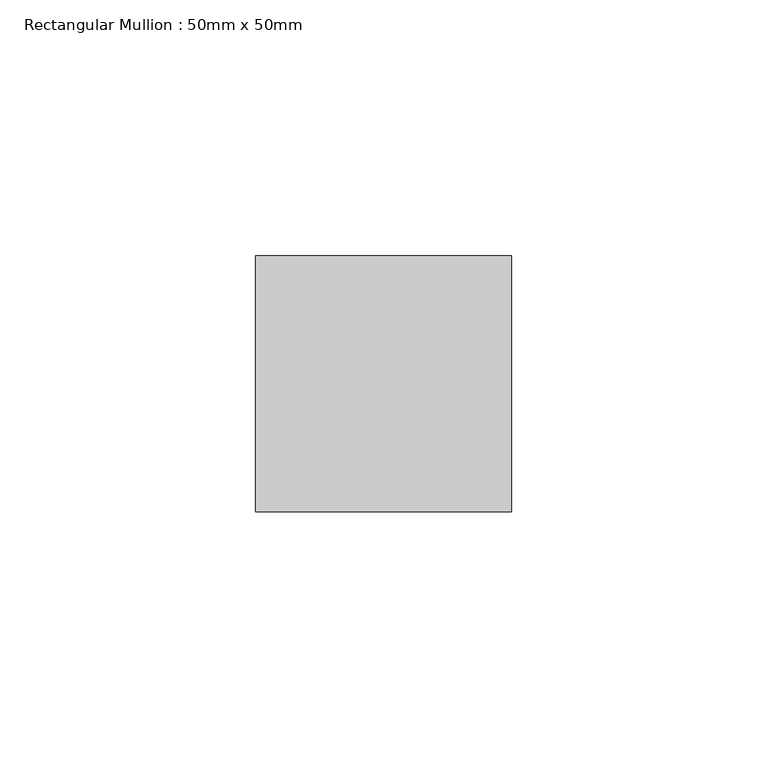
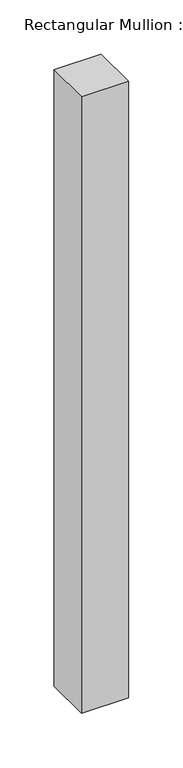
"""IFC4 building model written with IfcOpenShell, lengths in millimetres: member geometry, Rectangular Mullion : 50mm x 50mm."""

from ifc_helpers import new_model, si_unit, frame, origin, place, context, project, spatial, polyline, outline, extrude, source, transform, mapped, element, save


def rectangular_mullion_50mm_x_50mm_7783bf06(model_context):
    return source(origin(), model_context, "Body", "SweptSolid", [
        extrude(outline(polyline([(25.0, 25.0), (25.0, -25.0), (-25.0, -25.0), (-25.0, 25.0), (25.0, 25.0)])), frame((0.0, 0.0, -692.0945145), z_axis=(0.0, 0.0, 1.0), x_axis=(1.0, 0.0, 0.0)), (0.0, 0.0, 1.0), 692.0945145),
    ])


if __name__ == "__main__":
    model = new_model("IFC4")
    model_context = context("Model", 3, world=origin())
    ifc_project = project(units=[si_unit("LENGTHUNIT", "METRE", prefix="MILLI")], contexts=[model_context])
    site = spatial("IfcSite", under=ifc_project)
    building = spatial("IfcBuilding", under=site)
    placement = place(None, origin())
    rectangular_mullion_50mm_x_50mm_shape = rectangular_mullion_50mm_x_50mm_7783bf06(model_context)
    element("IfcMember", 1, ObjectType="Rectangular Mullion : 50mm x 50mm", at=placement, inside=building, context=model_context, shape_type="MappedRepresentation", body=[
        mapped(rectangular_mullion_50mm_x_50mm_shape, transform((0.0, 0.0, 0.0), x_axis=(1.0, 0.0, 0.0), y_axis=(0.0, 1.0, 0.0), z_axis=(0.0, 0.0, 1.0))),
    ])
    save(model, "model.ifc")
